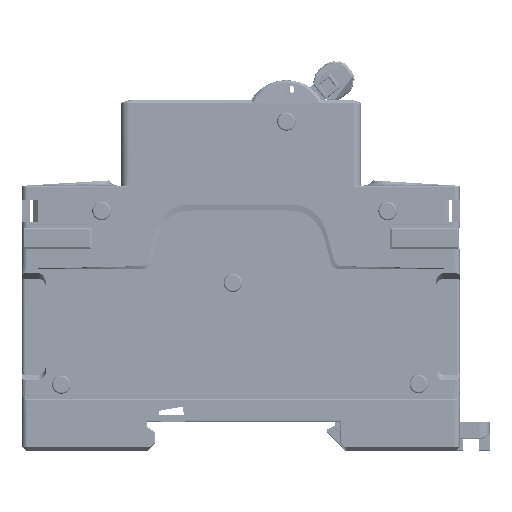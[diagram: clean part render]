
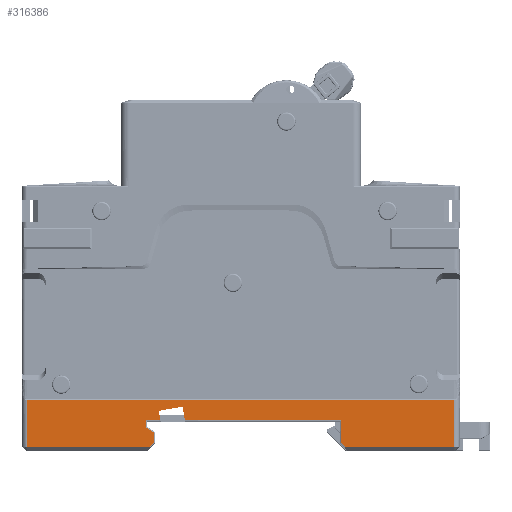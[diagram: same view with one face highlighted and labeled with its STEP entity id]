
A CAD part, left-side view. The second image highlights one B-rep face of the part: STEP entity #316386.
In plain terms, the highlighted planar face has unit normal (-1, 0, 0) as drawn and (0, 0, -1) by its records, which use the part's own axes.
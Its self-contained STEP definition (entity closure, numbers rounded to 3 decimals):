
#3038 = VERTEX_POINT ( 'NONE', #156091 ) ;
#7487 = VERTEX_POINT ( 'NONE', #59654 ) ;
#13974 = ORIENTED_EDGE ( 'NONE', *, *, #322301, .T. ) ;
#14666 = LINE ( 'NONE', #165198, #169564 ) ;
#15077 = VERTEX_POINT ( 'NONE', #97684 ) ;
#15977 = CARTESIAN_POINT ( 'NONE',  ( 56.96, 5.7, -18.53 ) ) ;
#16206 = VERTEX_POINT ( 'NONE', #53873 ) ;
#21919 = VECTOR ( 'NONE', #146749, 1000. ) ;
#22573 = CARTESIAN_POINT ( 'NONE',  ( 58.155, 1.583, -18.53 ) ) ;
#25290 = DIRECTION ( 'NONE',  ( 1., 0., 0. ) ) ;
#34391 = DIRECTION ( 'NONE',  ( 0., -1., 0. ) ) ;
#37098 = VERTEX_POINT ( 'NONE', #185178 ) ;
#47792 = LINE ( 'NONE', #259705, #123293 ) ;
#49985 = EDGE_CURVE ( 'NONE', #16206, #246930, #383005, .T. ) ;
#52490 = EDGE_CURVE ( 'NONE', #3038, #127463, #127318, .T. ) ;
#53873 = CARTESIAN_POINT ( 'NONE',  ( 58.155, 1.583, -18.53 ) ) ;
#55554 = LINE ( 'NONE', #303060, #225119 ) ;
#55661 = LINE ( 'NONE', #212075, #21919 ) ;
#58535 = VECTOR ( 'NONE', #34391, 1000. ) ;
#59583 = VERTEX_POINT ( 'NONE', #338032 ) ;
#59654 = CARTESIAN_POINT ( 'NONE',  ( 81.805, 0.8, -18.53 ) ) ;
#63053 = DIRECTION ( 'NONE',  ( 0.174, 0.985, 0. ) ) ;
#83483 = VECTOR ( 'NONE', #316966, 1000. ) ;
#87746 = PLANE ( 'NONE',  #349512 ) ;
#88433 = DIRECTION ( 'NONE',  ( 0., 1., 0. ) ) ;
#88596 = CARTESIAN_POINT ( 'NONE',  ( 2.105, 0.8, -18.53 ) ) ;
#88833 = DIRECTION ( 'NONE',  ( 0., -1., 0. ) ) ;
#92769 = LINE ( 'NONE', #185848, #237089 ) ;
#95066 = VERTEX_POINT ( 'NONE', #359320 ) ;
#97684 = CARTESIAN_POINT ( 'NONE',  ( 23.255, 1.583, -18.53 ) ) ;
#99801 = CARTESIAN_POINT ( 'NONE',  ( 52.39, 5.7, -18.53 ) ) ;
#101392 = EDGE_CURVE ( 'NONE', #235569, #95066, #213595, .T. ) ;
#112291 = LINE ( 'NONE', #173702, #190905 ) ;
#112523 = EDGE_CURVE ( 'NONE', #95066, #3038, #273750, .T. ) ;
#116933 = DIRECTION ( 'NONE',  ( 1., 0., 0. ) ) ;
#118389 = DIRECTION ( 'NONE',  ( 0.707, -0.707, 0. ) ) ;
#120072 = ORIENTED_EDGE ( 'NONE', *, *, #49985, .T. ) ;
#122490 = ORIENTED_EDGE ( 'NONE', *, *, #52490, .F. ) ;
#123073 = EDGE_LOOP ( 'NONE', ( #122490, #270213, #317799, #378920, #257120, #326478, #345404, #341232, #13974, #162007, #160476, #347951, #120072, #281868, #265010, #234635 ) ) ;
#123293 = VECTOR ( 'NONE', #380458, 1000. ) ;
#123501 = CARTESIAN_POINT ( 'NONE',  ( 23.255, 5.7, -18.53 ) ) ;
#126410 = CARTESIAN_POINT ( 'NONE',  ( 52.39, 5.7, -18.53 ) ) ;
#127318 = LINE ( 'NONE', #184786, #175221 ) ;
#127463 = VERTEX_POINT ( 'NONE', #15977 ) ;
#133606 = VECTOR ( 'NONE', #389374, 1000. ) ;
#135473 = DIRECTION ( 'NONE',  ( -1., 0., 0. ) ) ;
#146749 = DIRECTION ( 'NONE',  ( 1., 0., 0. ) ) ;
#148224 = CARTESIAN_POINT ( 'NONE',  ( 2.105, 0.8, -18.53 ) ) ;
#152458 = EDGE_CURVE ( 'NONE', #223879, #37098, #47792, .T. ) ;
#156091 = CARTESIAN_POINT ( 'NONE',  ( 57.277, 7.5, -18.53 ) ) ;
#160476 = ORIENTED_EDGE ( 'NONE', *, *, #332423, .F. ) ;
#162007 = ORIENTED_EDGE ( 'NONE', *, *, #263635, .T. ) ;
#165198 = CARTESIAN_POINT ( 'NONE',  ( 59.655, 5.7, -18.53 ) ) ;
#166777 = DIRECTION ( 'NONE',  ( 0.707, 0.707, 0. ) ) ;
#169564 = VECTOR ( 'NONE', #135473, 1000. ) ;
#171619 = VECTOR ( 'NONE', #118389, 1000. ) ;
#172741 = EDGE_CURVE ( 'NONE', #239267, #15077, #301770, .T. ) ;
#173702 = CARTESIAN_POINT ( 'NONE',  ( 59.655, 4.393, -18.53 ) ) ;
#175221 = VECTOR ( 'NONE', #368909, 1000. ) ;
#182318 = EDGE_CURVE ( 'NONE', #223879, #327955, #296604, .T. ) ;
#183884 = EDGE_CURVE ( 'NONE', #238864, #127463, #14666, .T. ) ;
#184786 = CARTESIAN_POINT ( 'NONE',  ( 57.277, 7.5, -18.53 ) ) ;
#185178 = CARTESIAN_POINT ( 'NONE',  ( 2.105, 9.5, -18.53 ) ) ;
#185848 = CARTESIAN_POINT ( 'NONE',  ( 81.805, 9.5, -18.53 ) ) ;
#190905 = VECTOR ( 'NONE', #88433, 1000. ) ;
#191469 = CARTESIAN_POINT ( 'NONE',  ( 22.472, 0.8, -18.53 ) ) ;
#200386 = CARTESIAN_POINT ( 'NONE',  ( 22.472, 0.8, -18.53 ) ) ;
#202721 = CARTESIAN_POINT ( 'NONE',  ( 49.555, 51.5, -18.53 ) ) ;
#207252 = CARTESIAN_POINT ( 'NONE',  ( 52.39, 5.7, -18.53 ) ) ;
#212075 = CARTESIAN_POINT ( 'NONE',  ( 58.938, 0.8, -18.53 ) ) ;
#212761 = EDGE_CURVE ( 'NONE', #327955, #15077, #230088, .T. ) ;
#213595 = LINE ( 'NONE', #126410, #364142 ) ;
#223879 = VERTEX_POINT ( 'NONE', #148224 ) ;
#224814 = EDGE_CURVE ( 'NONE', #16206, #59583, #354138, .T. ) ;
#225119 = VECTOR ( 'NONE', #116933, 1000. ) ;
#226701 = DIRECTION ( 'NONE',  ( 0., 1., 0. ) ) ;
#230088 = LINE ( 'NONE', #200386, #383675 ) ;
#234391 = DIRECTION ( 'NONE',  ( 1., 0., 0. ) ) ;
#234635 = ORIENTED_EDGE ( 'NONE', *, *, #183884, .T. ) ;
#235569 = VERTEX_POINT ( 'NONE', #99801 ) ;
#237089 = VECTOR ( 'NONE', #88833, 1000. ) ;
#238864 = VERTEX_POINT ( 'NONE', #365480 ) ;
#239097 = LINE ( 'NONE', #326239, #83483 ) ;
#239267 = VERTEX_POINT ( 'NONE', #293874 ) ;
#239887 = EDGE_CURVE ( 'NONE', #235569, #239267, #329934, .T. ) ;
#244397 = VERTEX_POINT ( 'NONE', #330663 ) ;
#246930 = VERTEX_POINT ( 'NONE', #283970 ) ;
#251992 = EDGE_CURVE ( 'NONE', #358174, #238864, #112291, .T. ) ;
#257120 = ORIENTED_EDGE ( 'NONE', *, *, #172741, .T. ) ;
#259705 = CARTESIAN_POINT ( 'NONE',  ( 2.105, 0.8, -18.53 ) ) ;
#263635 = EDGE_CURVE ( 'NONE', #244397, #7487, #92769, .T. ) ;
#265010 = ORIENTED_EDGE ( 'NONE', *, *, #251992, .T. ) ;
#265039 = VECTOR ( 'NONE', #339050, 1000. ) ;
#265271 = CARTESIAN_POINT ( 'NONE',  ( 59.655, 4.393, -18.53 ) ) ;
#267976 = FACE_OUTER_BOUND ( 'NONE', #123073, .T. ) ;
#270213 = ORIENTED_EDGE ( 'NONE', *, *, #112523, .F. ) ;
#273750 = LINE ( 'NONE', #333166, #265039 ) ;
#281868 = ORIENTED_EDGE ( 'NONE', *, *, #382189, .F. ) ;
#283970 = CARTESIAN_POINT ( 'NONE',  ( 58.155, 3.4, -18.53 ) ) ;
#284047 = VECTOR ( 'NONE', #226701, 1000. ) ;
#293874 = CARTESIAN_POINT ( 'NONE',  ( 23.255, 5.7, -18.53 ) ) ;
#294747 = CARTESIAN_POINT ( 'NONE',  ( 58.155, 1.583, -18.53 ) ) ;
#296604 = LINE ( 'NONE', #88596, #372028 ) ;
#301770 = LINE ( 'NONE', #123501, #58535 ) ;
#303060 = CARTESIAN_POINT ( 'NONE',  ( 2.105, 9.5, -18.53 ) ) ;
#316386 = ADVANCED_FACE ( 'NONE', ( #267976 ), #87746, .F. ) ;
#316966 = DIRECTION ( 'NONE',  ( -0.834, -0.552, 0. ) ) ;
#317799 = ORIENTED_EDGE ( 'NONE', *, *, #101392, .F. ) ;
#322301 = EDGE_CURVE ( 'NONE', #37098, #244397, #55554, .T. ) ;
#323506 = DIRECTION ( 'NONE',  ( 0., 0., 1. ) ) ;
#326239 = CARTESIAN_POINT ( 'NONE',  ( 59.655, 4.393, -18.53 ) ) ;
#326478 = ORIENTED_EDGE ( 'NONE', *, *, #212761, .F. ) ;
#327955 = VERTEX_POINT ( 'NONE', #191469 ) ;
#329934 = LINE ( 'NONE', #207252, #133606 ) ;
#330663 = CARTESIAN_POINT ( 'NONE',  ( 81.805, 9.5, -18.53 ) ) ;
#332423 = EDGE_CURVE ( 'NONE', #59583, #7487, #55661, .T. ) ;
#333166 = CARTESIAN_POINT ( 'NONE',  ( 52.845, 8.281, -18.53 ) ) ;
#338032 = CARTESIAN_POINT ( 'NONE',  ( 58.938, 0.8, -18.53 ) ) ;
#339050 = DIRECTION ( 'NONE',  ( 0.985, -0.174, 0. ) ) ;
#341232 = ORIENTED_EDGE ( 'NONE', *, *, #152458, .T. ) ;
#345404 = ORIENTED_EDGE ( 'NONE', *, *, #182318, .F. ) ;
#347951 = ORIENTED_EDGE ( 'NONE', *, *, #224814, .F. ) ;
#349512 = AXIS2_PLACEMENT_3D ( 'NONE', #202721, #323506, #234391 ) ;
#354138 = LINE ( 'NONE', #294747, #171619 ) ;
#358174 = VERTEX_POINT ( 'NONE', #265271 ) ;
#359320 = CARTESIAN_POINT ( 'NONE',  ( 52.845, 8.281, -18.53 ) ) ;
#364142 = VECTOR ( 'NONE', #63053, 1000. ) ;
#365480 = CARTESIAN_POINT ( 'NONE',  ( 59.655, 5.7, -18.53 ) ) ;
#368909 = DIRECTION ( 'NONE',  ( -0.174, -0.985, 0. ) ) ;
#372028 = VECTOR ( 'NONE', #25290, 1000. ) ;
#378920 = ORIENTED_EDGE ( 'NONE', *, *, #239887, .T. ) ;
#380458 = DIRECTION ( 'NONE',  ( 0., 1., 0. ) ) ;
#382189 = EDGE_CURVE ( 'NONE', #358174, #246930, #239097, .T. ) ;
#383005 = LINE ( 'NONE', #22573, #284047 ) ;
#383675 = VECTOR ( 'NONE', #166777, 1000. ) ;
#389374 = DIRECTION ( 'NONE',  ( -1., 0., 0. ) ) ;
